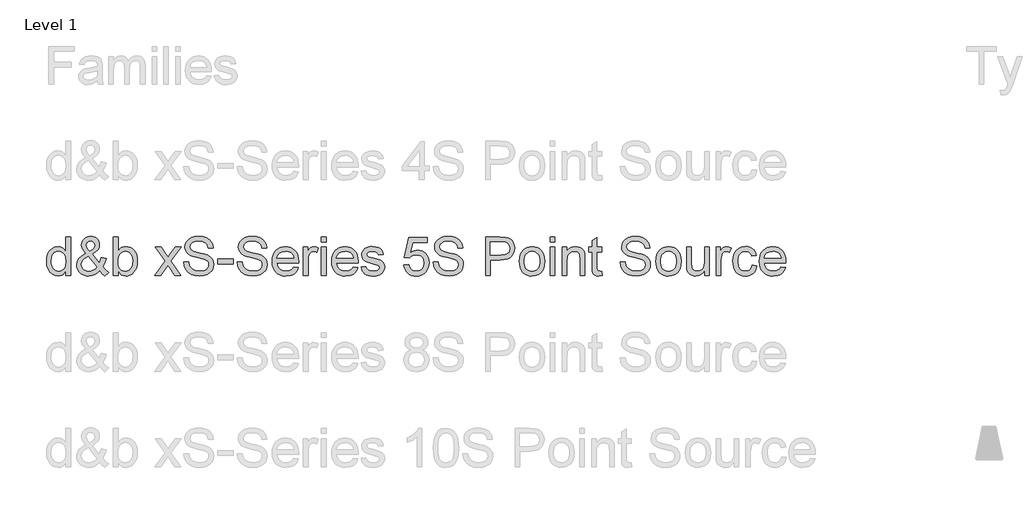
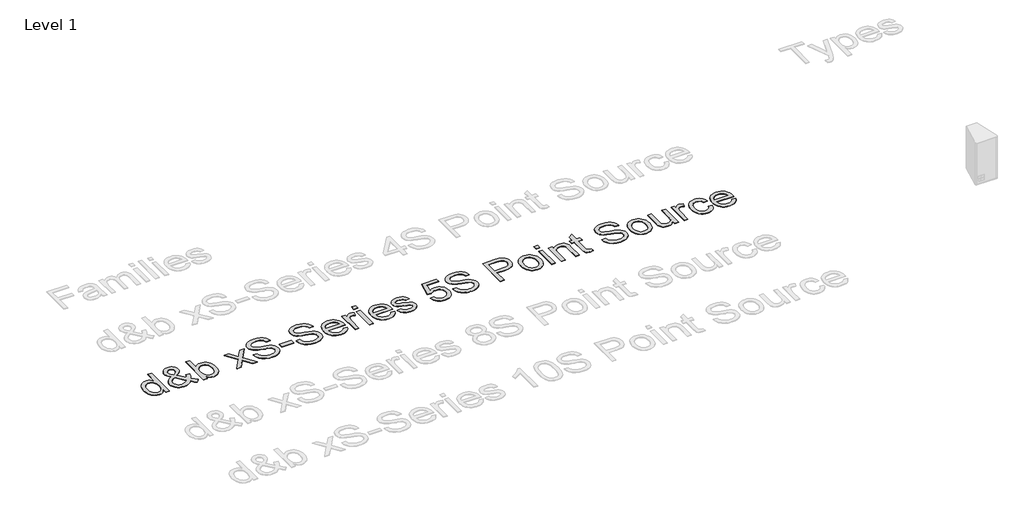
# One storey, part 49 of 55: 1 proxy.
"""IFC4 building model written with IfcOpenShell, lengths in millimetres."""

import ifcopenshell
import ifcopenshell.guid

model = None  # the IFC model being written
_history = None  # IfcOwnerHistory: only IFC2X3 demands one
_inside = {}  # id of a spatial element -> (the spatial element, [elements in it])
_under = {}  # id of a project, library or spatial element -> (it, [spatial elements below it])
_declared = {}  # id of a project -> (the project, [libraries it declares])
_typed = {}  # id of a type object -> (the type object, [elements of that type])
_made_of = {}  # id of a material, layer set ... -> (it, [elements and type objects made of it])


def new_model(schema):
    """Start an empty IFC model of exactly this schema.

    Asked for "IFC4X3", IfcOpenShell would pick the latest addendum, in which some entities
    have other attributes; the version numbers below select the first issue.
    IFC2X3 requires an IfcOwnerHistory on every rooted entity: one is made here for all.
    """
    global model, _history
    if schema == "IFC4X3":
        model = ifcopenshell.file(schema_version=(4, 3, 0, 0))
    else:
        model = ifcopenshell.file(schema=schema)
    _inside.clear()
    _under.clear()
    _declared.clear()
    _typed.clear()
    _made_of.clear()
    _history = None
    if model.schema == "IFC2X3":
        org = make("IfcOrganization", Name="unknown")
        user = make(
            "IfcPersonAndOrganization",
            ThePerson=make("IfcPerson", FamilyName="unknown"),
            TheOrganization=org,
        )
        app = make(
            "IfcApplication",
            ApplicationDeveloper=org,
            Version="unknown",
            ApplicationFullName="unknown",
            ApplicationIdentifier="unknown",
        )
        _history = make(
            "IfcOwnerHistory",
            OwningUser=user,
            OwningApplication=app,
            ChangeAction="ADDED",
            CreationDate=0,
        )
    return model


def make(cls, **values):
    """One entity of the class cls with the attributes given. An attribute that is None is left unset."""
    return model.create_entity(
        cls, **{name: value for name, value in values.items() if value is not None}
    )


def rooted(cls, **values):
    """An entity with a GlobalId (a new one), such as an element, a storey or a relation."""
    return make(cls, GlobalId=ifcopenshell.guid.new(), OwnerHistory=_history, **values)


def si_unit(unit_type, name, prefix=None):
    """IfcSIUnit, for example si_unit("LENGTHUNIT", "METRE", prefix="MILLI")."""
    return make("IfcSIUnit", UnitType=unit_type, Prefix=prefix, Name=name)


def assignment(units):
    """IfcUnitAssignment: the units of a project."""
    return None if units is None else make("IfcUnitAssignment", Units=units)


def point(xyz):
    """IfcCartesianPoint."""
    return None if xyz is None else make("IfcCartesianPoint", Coordinates=xyz)


def direction(xyz):
    """IfcDirection."""
    return None if xyz is None else make("IfcDirection", DirectionRatios=xyz)


def frame(location, z_axis=None, x_axis=None):
    """IfcAxis2Placement3D, a coordinate frame: its origin and axes. An axis left out is left unset."""
    return make(
        "IfcAxis2Placement3D",
        Location=point(location),
        Axis=direction(z_axis),
        RefDirection=direction(x_axis),
    )


def origin():
    """The frame at (0, 0, 0) with its axes left unset."""
    return frame((0.0, 0.0, 0.0))


def origin_with_axes():
    """The frame at (0, 0, 0) with the z axis (0, 0, 1) and the x axis (1, 0, 0) written out."""
    return frame((0.0, 0.0, 0.0), z_axis=(0.0, 0.0, 1.0), x_axis=(1.0, 0.0, 0.0))


def place(relative_to, where):
    """IfcLocalPlacement: puts the frame where relative to a parent placement (None: the world)."""
    return make(
        "IfcLocalPlacement", PlacementRelTo=relative_to, RelativePlacement=where
    )


def context(
    kind, dimensions, precision=None, world=None, true_north=None, identifier=None
):
    """IfcGeometricRepresentationContext, for example the 3D "Model" context."""
    return make(
        "IfcGeometricRepresentationContext",
        ContextIdentifier=identifier,
        ContextType=kind,
        CoordinateSpaceDimension=dimensions,
        Precision=precision,
        WorldCoordinateSystem=world,
        TrueNorth=true_north,
    )


def project(units=None, contexts=None):
    """IfcProject with its units and contexts."""
    return rooted(
        "IfcProject",
        Name="project",
        RepresentationContexts=contexts,
        UnitsInContext=assignment(units),
    )


def spatial(cls, under=None, at=None, **own):
    """A site, building, storey or space (cls), placed at a placement, below another one or the project."""
    s = rooted(cls, ObjectPlacement=at, **own)
    if under is not None:
        _under.setdefault(under.id(), (under, []))[1].append(s)
    return s


def polyline(points):
    """IfcPolyline through the points."""
    return make("IfcPolyline", Points=[point(p) for p in points])


def outline(outer, holes=None, kind="AREA"):
    """IfcArbitraryClosedProfileDef: a profile drawn as a closed curve; with holes, ...WithVoids."""
    if holes is None:
        return make("IfcArbitraryClosedProfileDef", ProfileType=kind, OuterCurve=outer)
    return make(
        "IfcArbitraryProfileDefWithVoids",
        ProfileType=kind,
        OuterCurve=outer,
        InnerCurves=holes,
    )


def extrude(swept, where, along, depth):
    """IfcExtrudedAreaSolid: the profile swept, set in the frame where, extruded along a direction by depth."""
    return make(
        "IfcExtrudedAreaSolid",
        SweptArea=swept,
        Position=where,
        ExtrudedDirection=direction(along),
        Depth=depth,
    )


def shape(context_of_items, identifier, shape_type, items):
    """IfcShapeRepresentation: the items that make up one representation, for example the "Body"."""
    return make(
        "IfcShapeRepresentation",
        ContextOfItems=context_of_items,
        RepresentationIdentifier=identifier,
        RepresentationType=shape_type,
        Items=items,
    )


def made_of(thing, what):
    """Note that an element or type object is made of a material, layer set ...; save() writes the relation."""
    if what is not None:
        _made_of.setdefault(what.id(), (what, []))[1].append(thing)
    return thing


def element(
    cls,
    number,
    at=None,
    inside=None,
    cuts=None,
    type_object=None,
    material=None,
    context=None,
    identifier="Body",
    shape_type=None,
    held_by="IfcProductDefinitionShape",
    body=None,
    shapes=None,
    **own,
):
    """One element of the class cls, such as IfcWall. Its Tag is "e" and its number.

    at: its placement. inside: the storey or other place that contains it. cuts: it is an
    opening in that element (IfcRelVoidsElement). A single representation is given by context,
    identifier, shape_type and body (its items); several are given by shapes. held_by: the class
    of the entity that holds the representations. save() writes the other relations.
    """
    e = rooted(cls, Tag="e%d" % number, ObjectPlacement=at, **own)
    if body is not None:
        shapes = [shape(context, identifier, shape_type, body)]
    if shapes is not None:
        e.Representation = make(held_by, Representations=shapes)
    if inside is not None:
        _inside.setdefault(inside.id(), (inside, []))[1].append(e)
    if cuts is not None:
        rooted(
            "IfcRelVoidsElement", RelatingBuildingElement=cuts, RelatedOpeningElement=e
        )
    if type_object is not None:
        _typed.setdefault(type_object.id(), (type_object, []))[1].append(e)
    return made_of(e, material)


def aggregate(whole, parts):
    """IfcRelAggregates: a whole, such as a stair, and the parts it consists of."""
    return rooted("IfcRelAggregates", RelatingObject=whole, RelatedObjects=parts)


def save(model, path):
    """Write the relations noted so far, then the file.

    IfcRelAggregates (storeys below a building ...), IfcRelContainedInSpatialStructure (elements
    in a storey), IfcRelDefinesByType, IfcRelAssociatesMaterial and IfcRelDeclares: one each for
    every whole, place, type object, material and project.
    """
    for whole, parts in _under.values():
        aggregate(whole, parts)
    for where, things in _inside.values():
        rooted(
            "IfcRelContainedInSpatialStructure",
            RelatedElements=things,
            RelatingStructure=where,
        )
    for kind, things in _typed.values():
        rooted("IfcRelDefinesByType", RelatedObjects=things, RelatingType=kind)
    for what, things in _made_of.values():
        rooted("IfcRelAssociatesMaterial", RelatedObjects=things, RelatingMaterial=what)
    for by, libraries in _declared.values():
        rooted("IfcRelDeclares", RelatingContext=by, RelatedDefinitions=libraries)
    model.write(path)


model = new_model("IFC4")

# Units and contexts
model_context = context("Model", 3, world=origin())
ifc_project = project(units=[si_unit("LENGTHUNIT", "METRE", prefix="MILLI")], contexts=[model_context])

# Site, building, storey
site = spatial("IfcSite", under=ifc_project)
building = spatial("IfcBuilding", under=site)
storey = spatial("IfcBuildingStorey", under=building, Name="Level 1", Elevation=0.0)

# Proxy
placement = place(None, origin())
element("IfcBuildingElementProxy", 1, Name="400mm Arial", ObjectType="400mm Arial", at=placement, inside=storey, context=model_context, shape_type="SweptSolid", body=[
    extrude(outline(polyline([(-20879.8211974, 15351.3054836), (-20879.8211974, 15398.6886846), (-20894.8491769, 15375.2116819), (-20913.0532043, 15358.4423943), (-20934.4332796, 15348.3808217), (-20958.9894028, 15345.0269642), (-20991.4611202, 15349.8830065), (-21021.1859854, 15364.4511335), (-21046.3491139, 15387.7135384), (-21065.1356211, 15418.6524142), (-21076.8342686, 15456.0169621), (-21080.7338177, 15498.5563835), (-21077.1408369, 15540.5685074), (-21066.3618944, 15578.5094038), (-21048.4092531, 15610.2208318), (-21023.2951755, 15633.5445503), (-20992.9203855, 15647.8919481), (-20959.1856065, 15652.674414), (-20934.6110892, 15649.2531115), (-20912.8815261, 15638.9892038), (-20894.4629008, 15623.2561171), (-20879.8211974, 15603.4272776), (-20879.8211974, 15753.1307242), (-20829.5930424, 15753.1307242), (-20829.5930424, 15351.3054836), (-20879.8211974, 15351.3054836)]), holes=[polyline([(-21030.5056627, 15498.7525872), (-21029.089317, 15474.3957335), (-21024.8402799, 15453.3191608), (-21017.7585515, 15435.5228693), (-21007.8441318, 15421.0068589), (-20983.1469871, 15401.6930542), (-20969.2717046, 15396.864603), (-20954.3786151, 15395.2551193), (-20939.415015, 15396.7910266), (-20925.6225058, 15401.3987486), (-20901.5507606, 15419.8296365), (-20892.0440767, 15433.7386416), (-20885.2535882, 15450.8911397), (-20879.8211974, 15494.9266145), (-20885.3516901, 15543.0701049), (-20892.2648059, 15561.6052261), (-20901.9431681, 15576.4492646), (-20913.6448812, 15587.8229496), (-20926.6280499, 15595.9470104), (-20940.8926743, 15600.8214468), (-20956.4387543, 15602.4462589), (-20971.6261493, 15600.8858262), (-20985.5014319, 15596.2045278), (-20998.064602, 15588.4023638), (-21009.3156597, 15577.4793342), (-21018.586286, 15563.1963157), (-21025.2081619, 15545.3141851), (-21030.5056627, 15498.7525872)])]), origin_with_axes(), (0.0, 0.0, 1.0), 5.0),
    extrude(outline(polyline([(-20523.809528, 15400.9450275), (-20549.3405384, 15376.4808748), (-20577.0788409, 15359.00648), (-20607.0734862, 15348.5218431), (-20639.3735254, 15345.0269642), (-20668.6814577, 15347.6144009), (-20694.8010793, 15355.376711), (-20717.7323904, 15368.3138945), (-20737.4753908, 15386.4259514), (-20750.308341, 15403.7961129), (-20759.4747341, 15422.1595558), (-20764.9745699, 15441.5162802), (-20766.8078485, 15461.8662859), (-20760.9094739, 15497.0603301), (-20743.2143499, 15528.6736562), (-20713.796053, 15556.6817387), (-20672.7281596, 15581.0600523), (-20694.6416638, 15609.4114914), (-20707.7995765, 15631.8768186), (-20714.3846642, 15651.0557332), (-20716.5796934, 15669.5479349), (-20714.8506481, 15687.1020374), (-20709.6635119, 15703.4666548), (-20701.018285, 15718.6417871), (-20688.9149674, 15732.6274343), (-20674.1935562, 15744.3444759), (-20657.6940487, 15752.7137912), (-20639.4164449, 15757.7353805), (-20619.3607448, 15759.4092436), (-20600.212487, 15757.8089569), (-20582.8913764, 15753.0080968), (-20567.397413, 15745.0066634), (-20553.7305969, 15733.8046567), (-20542.5715097, 15720.3585698), (-20534.6007332, 15705.6248959), (-20529.8182672, 15689.603635), (-20528.2241119, 15672.2947871), (-20532.9452642, 15644.31123), (-20547.108721, 15618.436863), (-20570.7144823, 15594.6716861), (-20603.7625482, 15573.0156993), (-20531.069066, 15482.4676776), (-20518.6837055, 15508.3420446), (-20509.3885538, 15538.0914353), (-20459.1603987, 15527.2021282), (-20474.6114425, 15480.6773185), (-20494.6732739, 15444.5022557), (-20466.1256311, 15411.1966724), (-20434.0463211, 15383.6790991), (-20471.7174374, 15345.0269642), (-20497.3465498, 15368.47331), (-20523.809528, 15400.9450275)]), holes=[polyline([(-20557.4584678, 15437.1446158), (-20647.1235727, 15549.0788442), (-20681.3733865, 15527.2266537), (-20702.305872, 15506.9931439), (-20713.0112381, 15487.6670765), (-20716.5796934, 15468.5372127), (-20711.6991256, 15444.8456122), (-20697.0574222, 15420.2710949), (-20686.2784798, 15409.3266056), (-20673.4639236, 15401.5091132), (-20658.6137537, 15396.8186177), (-20641.7279702, 15395.2551193), (-20619.0051256, 15398.1736498), (-20595.5710425, 15406.9292412), (-20574.1480476, 15420.3201459), (-20557.4584678, 15437.1446158)]), polyline([(-20629.1709314, 15604.7026019), (-20602.9041569, 15621.3676562), (-20587.8700461, 15635.8499441), (-20580.8067117, 15649.9398245), (-20578.452267, 15665.4276565), (-20581.5547385, 15682.9756277), (-20590.862153, 15696.9674062), (-20604.829406, 15706.1276679), (-20621.9113933, 15709.1810885), (-20639.3612626, 15706.1521934), (-20653.6473468, 15697.0655081), (-20663.1754905, 15683.6132898), (-20666.3515384, 15667.4877957), (-20662.0350563, 15649.0936959), (-20648.9875082, 15628.639457), (-20629.1709314, 15604.7026019)])]), origin_with_axes(), (0.0, 0.0, 1.0), 5.0),
    extrude(outline(polyline([(-20333.590011, 15351.3054836), (-20383.8181661, 15351.3054836), (-20383.8181661, 15753.1307242), (-20333.590011, 15753.1307242), (-20333.590011, 15604.1139907), (-20317.0721094, 15625.3591759), (-20298.4204923, 15640.5343082), (-20277.6351595, 15649.6393876), (-20254.7161112, 15652.674414), (-20228.8417442, 15649.9398245), (-20204.3898543, 15641.736056), (-20182.758393, 15628.5781433), (-20165.3453119, 15610.9811212), (-20151.6968898, 15589.116668), (-20141.3594058, 15563.1564619), (-20134.8478945, 15534.1796234), (-20132.6773907, 15503.265273), (-20134.9245365, 15467.5929822), (-20141.6659741, 15436.2126481), (-20152.9017034, 15409.1242705), (-20168.6317244, 15386.3278495), (-20187.5132678, 15368.2587122), (-20208.2035643, 15355.3521855), (-20230.702614, 15347.6082695), (-20255.0104168, 15345.0269642), (-20278.6836232, 15348.3562962), (-20299.671291, 15358.3442924), (-20317.9734203, 15374.9909527), (-20333.590011, 15398.2962771), (-20333.590011, 15351.3054836)]), holes=[polyline([(-20333.590011, 15500.9108283), (-20330.1564457, 15459.0213318), (-20319.8557498, 15430.6698927), (-20307.6849872, 15415.1759293), (-20293.5399244, 15404.1088126), (-20277.4205617, 15397.4685426), (-20259.3268989, 15395.2551193), (-20244.3050508, 15396.8860628), (-20230.3377977, 15401.7788933), (-20217.4251396, 15409.9336109), (-20205.5670767, 15421.3502155), (-20195.6526569, 15435.9980502), (-20188.5709285, 15453.8464584), (-20184.3218914, 15474.8954399), (-20182.9055458, 15499.1449947), (-20188.3379366, 15545.1057186), (-20195.1284251, 15562.8989445), (-20204.6351089, 15577.2340795), (-20216.0670419, 15588.264408), (-20228.6332778, 15596.1432141), (-20242.3338164, 15600.8704977), (-20257.1686579, 15602.4462589), (-20272.190506, 15600.8153154), (-20286.1577591, 15595.9224849), (-20299.0704171, 15587.7677673), (-20310.9284801, 15576.3511628), (-20320.8428999, 15561.8504808), (-20327.9246283, 15544.443531), (-20332.1736653, 15524.1303135), (-20333.590011, 15500.9108283)])]), origin_with_axes(), (0.0, 0.0, 1.0), 5.0),
    extrude(outline(polyline([(-19950.6003285, 15351.3054836), (-19843.2768878, 15499.7336059), (-19944.3218092, 15646.3958946), (-19884.0872638, 15646.3958946), (-19835.3306367, 15575.6644497), (-19812.4729021, 15542.4079173), (-19792.6563253, 15569.6802359), (-19737.1306695, 15646.3958946), (-19676.6999204, 15646.3958946), (-19782.8461387, 15499.635504), (-19680.623995, 15351.3054836), (-19740.9566422, 15351.3054836), (-19802.5646137, 15440.5781811), (-19813.7482263, 15456.9611926), (-19890.1695795, 15351.3054836), (-19950.6003285, 15351.3054836)])), origin_with_axes(), (0.0, 0.0, 1.0), 5.0),
    extrude(outline(polyline([(-19649.2313981, 15489.43291), (-19599.003243, 15489.43291), (-19593.2397584, 15461.5597175), (-19582.8164352, 15439.155704), (-19566.556051, 15421.3747409), (-19543.2813835, 15407.3706996), (-19514.8318425, 15398.2840144), (-19483.0468381, 15395.2551193), (-19455.063281, 15397.5482504), (-19430.5623402, 15404.4276437), (-19410.7089752, 15415.3169507), (-19396.6681457, 15429.6398231), (-19388.3172244, 15446.0841483), (-19385.533584, 15463.3378138), (-19387.6182486, 15480.150021), (-19393.8722425, 15494.6813598), (-19406.5764341, 15507.0789831), (-19428.0116917, 15517.4900435), (-19501.1466323, 15536.6689582), (-19549.1552327, 15549.360887), (-19579.8733793, 15561.4396792), (-19604.8770922, 15578.3377255), (-19622.5967416, 15598.8164899), (-19633.1549549, 15622.434514), (-19636.6743593, 15648.7503394), (-19632.3210891, 15678.1686363), (-19619.2612782, 15705.6003704), (-19597.8382834, 15728.8505125), (-19568.395461, 15745.7240333), (-19533.054264, 15755.987941), (-19493.9361452, 15759.4092436), (-19451.5561394, 15755.8285255), (-19414.4736342, 15745.0863712), (-19384.013005, 15727.40351), (-19361.4986269, 15703.000671), (-19347.249331, 15673.3984331), (-19341.5839483, 15640.1173753), (-19391.8121033, 15640.1173753), (-19401.0336787, 15670.0874951), (-19409.3968627, 15681.9455581), (-19420.2616443, 15691.7189564), (-19450.3053406, 15704.8155555), (-19491.9741079, 15709.1810885), (-19534.6238939, 15704.8646064), (-19550.9271976, 15699.4690038), (-19563.8827752, 15691.9151602), (-19580.805347, 15672.8588728), (-19586.4462043, 15650.2218674), (-19582.4485532, 15630.9203254), (-19570.4556002, 15615.3957052), (-19542.1041611, 15601.5142912), (-19488.4424407, 15587.3385717), (-19433.0639377, 15573.8740907), (-19399.5621507, 15562.1263923), (-19370.9286687, 15543.9039708), (-19350.9526764, 15521.4141181), (-19339.2172408, 15494.902089), (-19335.3054289, 15464.6131381), (-19339.805852, 15433.6497368), (-19353.3071212, 15404.5257455), (-19375.2574136, 15379.4607189), (-19405.1049061, 15360.6742117), (-19440.9979261, 15348.9387761), (-19481.0848008, 15345.0269642), (-19530.2951491, 15349.2453444), (-19570.7989567, 15361.900485), (-19603.0622077, 15383.041437), (-19627.5508858, 15412.7172513), (-19643.2717098, 15448.8677887), (-19649.2313981, 15489.43291)])), origin_with_axes(), (0.0, 0.0, 1.0), 5.0),
    extrude(outline(polyline([(-19291.3557932, 15470.5973519), (-19291.3557932, 15520.825507), (-19134.3928086, 15520.825507), (-19134.3928086, 15470.5973519), (-19291.3557932, 15470.5973519)])), origin_with_axes(), (0.0, 0.0, 1.0), 5.0),
    extrude(outline(polyline([(-19090.4431729, 15489.43291), (-19040.2150178, 15489.43291), (-19034.4515332, 15461.5597175), (-19024.02821, 15439.155704), (-19007.7678258, 15421.3747409), (-18984.4931583, 15407.3706996), (-18956.0436173, 15398.2840144), (-18924.2586129, 15395.2551193), (-18896.2750558, 15397.5482504), (-18871.774115, 15404.4276437), (-18851.9207499, 15415.3169507), (-18837.8799205, 15429.6398231), (-18829.5289992, 15446.0841483), (-18826.7453587, 15463.3378138), (-18828.8300234, 15480.150021), (-18835.0840173, 15494.6813598), (-18847.7882089, 15507.0789831), (-18869.2234665, 15517.4900435), (-18942.3584071, 15536.6689582), (-18990.3670075, 15549.360887), (-19021.0851541, 15561.4396792), (-19046.088867, 15578.3377255), (-19063.8085164, 15598.8164899), (-19074.3667297, 15622.434514), (-19077.8861341, 15648.7503394), (-19073.5328638, 15678.1686363), (-19060.473053, 15705.6003704), (-19039.0500582, 15728.8505125), (-19009.6072358, 15745.7240333), (-18974.2660388, 15755.987941), (-18935.14792, 15759.4092436), (-18892.7679141, 15755.8285255), (-18855.685409, 15745.0863712), (-18825.2247798, 15727.40351), (-18802.7104017, 15703.000671), (-18788.4611058, 15673.3984331), (-18782.7957231, 15640.1173753), (-18833.0238781, 15640.1173753), (-18842.2454535, 15670.0874951), (-18850.6086375, 15681.9455581), (-18861.4734191, 15691.7189564), (-18891.5171154, 15704.8155555), (-18933.1858827, 15709.1810885), (-18975.8356687, 15704.8646064), (-18992.1389724, 15699.4690038), (-19005.09455, 15691.9151602), (-19022.0171218, 15672.8588728), (-19027.657979, 15650.2218674), (-19023.660328, 15630.9203254), (-19011.667375, 15615.3957052), (-18983.3159359, 15601.5142912), (-18929.6542155, 15587.3385717), (-18874.2757125, 15573.8740907), (-18840.7739255, 15562.1263923), (-18812.1404435, 15543.9039708), (-18792.1644512, 15521.4141181), (-18780.4290156, 15494.902089), (-18776.5172037, 15464.6131381), (-18781.0176267, 15433.6497368), (-18794.518896, 15404.5257455), (-18816.4691883, 15379.4607189), (-18846.3166809, 15360.6742117), (-18882.2097009, 15348.9387761), (-18922.2965756, 15345.0269642), (-18971.5069238, 15349.2453444), (-19012.0107315, 15361.900485), (-19044.2739825, 15383.041437), (-19068.7626606, 15412.7172513), (-19084.4834846, 15448.8677887), (-19090.4431729, 15489.43291)])), origin_with_axes(), (0.0, 0.0, 1.0), 5.0),
    extrude(outline(polyline([(-18500.850962, 15439.204755), (-18451.6038255, 15432.9262356), (-18459.1546035, 15413.2016293), (-18469.3480004, 15395.819205), (-18482.1840164, 15380.7789628), (-18497.6626513, 15368.0809026), (-18515.6244897, 15357.9948045), (-18535.9101161, 15350.7904488), (-18583.4527326, 15345.0269642), (-18614.618469, 15347.5132333), (-18642.3874282, 15354.9720408), (-18666.7596104, 15367.4033865), (-18687.7350155, 15384.8072706), (-18704.602405, 15406.699315), (-18716.6505403, 15432.5951418), (-18723.8794215, 15462.4947509), (-18726.2890486, 15496.3981425), (-18723.8548961, 15531.4511652), (-18716.5524385, 15562.3471215), (-18704.3816758, 15589.0860112), (-18687.342608, 15611.6678343), (-18666.4223852, 15629.6082129), (-18642.6081574, 15642.4227691), (-18615.8999246, 15650.1115028), (-18586.2976867, 15652.674414), (-18557.6488763, 15650.1176342), (-18531.7407868, 15642.4472946), (-18508.5734182, 15629.6633952), (-18488.1467704, 15611.7659362), (-18471.472519, 15589.233164), (-18459.5623394, 15562.5433252), (-18452.4162316, 15531.6964199), (-18450.0341957, 15496.6924481), (-18450.3285013, 15483.1543906), (-18676.0608935, 15483.1543906), (-18673.1515601, 15463.1109533), (-18667.3666157, 15445.5568507), (-18658.7060604, 15430.492083), (-18647.1698942, 15417.9166502), (-18633.3957791, 15408.0022304), (-18618.0213774, 15400.920502), (-18582.4717139, 15395.2551193), (-18555.7389556, 15397.8793442), (-18533.2245775, 15405.7520189), (-18514.9285796, 15419.3636527), (-18500.850962, 15439.204755)]), holes=[polyline([(-18676.0608935, 15533.3825457), (-18500.2623508, 15533.3825457), (-18507.0559049, 15559.9191003), (-18520.3732332, 15578.9018113), (-18534.0707061, 15589.2025071), (-18549.65664, 15596.560147), (-18567.1310348, 15600.974731), (-18586.4938904, 15602.4462589), (-18620.3512967, 15597.7496321), (-18648.3471166, 15583.6597517), (-18667.8080741, 15561.6971966), (-18676.0608935, 15533.3825457)])]), origin_with_axes(), (0.0, 0.0, 1.0), 5.0),
    extrude(outline(polyline([(-18399.8060406, 15351.3054836), (-18399.8060406, 15646.3958946), (-18355.8564049, 15646.3958946), (-18355.8564049, 15602.7405645), (-18339.6205462, 15628.0508458), (-18324.6600117, 15642.9623293), (-18309.6504263, 15650.2463929), (-18293.2674148, 15652.674414), (-18268.2514391, 15648.7993903), (-18242.843056, 15637.1743193), (-18259.618475, 15592.1455631), (-18277.2768108, 15599.871085), (-18294.9351465, 15602.4462589), (-18309.9324692, 15599.9691868), (-18323.3356365, 15592.5379705), (-18334.1636299, 15580.7166958), (-18341.4354307, 15565.0694482), (-18347.5422718, 15537.0123147), (-18349.5778855, 15506.4045327), (-18349.5778855, 15351.3054836), (-18399.8060406, 15351.3054836)])), origin_with_axes(), (0.0, 0.0, 1.0), 5.0),
    extrude(outline(polyline([(-18211.4504591, 15702.9025691), (-18211.4504591, 15753.1307242), (-18161.222304, 15753.1307242), (-18161.222304, 15702.9025691), (-18211.4504591, 15702.9025691)])), origin_with_axes(), (0.0, 0.0, 1.0), 5.0),
    extrude(outline(polyline([(-18211.4504591, 15351.3054836), (-18211.4504591, 15646.3958946), (-18161.222304, 15646.3958946), (-18161.222304, 15351.3054836), (-18211.4504591, 15351.3054836)])), origin_with_axes(), (0.0, 0.0, 1.0), 5.0),
    extrude(outline(polyline([(-17879.2775429, 15439.204755), (-17830.0304065, 15432.9262356), (-17837.5811844, 15413.2016293), (-17847.7745814, 15395.819205), (-17860.6105973, 15380.7789628), (-17876.0892323, 15368.0809026), (-17894.0510707, 15357.9948045), (-17914.336697, 15350.7904488), (-17961.8793136, 15345.0269642), (-17993.0450499, 15347.5132333), (-18020.8140092, 15354.9720408), (-18045.1861914, 15367.4033865), (-18066.1615965, 15384.8072706), (-18083.0289859, 15406.699315), (-18095.0771213, 15432.5951418), (-18102.3060025, 15462.4947509), (-18104.7156295, 15496.3981425), (-18102.281477, 15531.4511652), (-18094.9790194, 15562.3471215), (-18082.8082567, 15589.0860112), (-18065.769189, 15611.6678343), (-18044.8489662, 15629.6082129), (-18021.0347384, 15642.4227691), (-17994.3265055, 15650.1115028), (-17964.7242676, 15652.674414), (-17936.0754573, 15650.1176342), (-17910.1673678, 15642.4472946), (-17886.9999991, 15629.6633952), (-17866.5733513, 15611.7659362), (-17849.8990999, 15589.233164), (-17837.9889203, 15562.5433252), (-17830.8428126, 15531.6964199), (-17828.4607766, 15496.6924481), (-17828.7550822, 15483.1543906), (-18054.4874745, 15483.1543906), (-18051.578141, 15463.1109533), (-18045.7931967, 15445.5568507), (-18037.1326413, 15430.492083), (-18025.5964751, 15417.9166502), (-18011.8223601, 15408.0022304), (-17996.4479584, 15400.920502), (-17960.8982949, 15395.2551193), (-17934.1655366, 15397.8793442), (-17911.6511585, 15405.7520189), (-17893.3551606, 15419.3636527), (-17879.2775429, 15439.204755)]), holes=[polyline([(-18054.4874745, 15533.3825457), (-17878.6889317, 15533.3825457), (-17885.4824859, 15559.9191003), (-17898.7998141, 15578.9018113), (-17912.4972871, 15589.2025071), (-17928.0832209, 15596.560147), (-17945.5576157, 15600.974731), (-17964.9204714, 15602.4462589), (-17998.7778777, 15597.7496321), (-18026.7736975, 15583.6597517), (-18046.234655, 15561.6971966), (-18054.4874745, 15533.3825457)])]), origin_with_axes(), (0.0, 0.0, 1.0), 5.0),
    extrude(outline(polyline([(-17797.0681797, 15439.204755), (-17746.8400246, 15445.4832743), (-17738.918299, 15423.9989658), (-17723.5898825, 15408.2045655), (-17700.7566734, 15398.4924808), (-17670.3205696, 15395.2551193), (-17640.2523479, 15398.2227007), (-17619.1113959, 15407.125445), (-17606.6034081, 15420.0258403), (-17602.4340788, 15434.9863747), (-17606.6279335, 15447.7886682), (-17619.2094978, 15457.5498038), (-17670.9091808, 15471.8726761), (-17746.545719, 15496.4471934), (-17765.6878455, 15508.7957657), (-17779.5569967, 15525.141989), (-17787.9814944, 15544.443531), (-17790.7896603, 15565.6580594), (-17788.5333174, 15585.119017), (-17781.7642887, 15603.0839211), (-17771.0957109, 15618.8415332), (-17757.1407205, 15631.6806148), (-17725.2085633, 15646.5430474), (-17704.3251287, 15651.1415724), (-17681.9946916, 15652.674414), (-17649.302245, 15650.2096047), (-17620.8772295, 15642.8151766), (-17598.0194949, 15631.214631), (-17582.0288908, 15616.1314692), (-17571.4338893, 15596.4497824), (-17564.7629625, 15571.053662), (-17614.9911176, 15564.7751426), (-17621.3309506, 15580.5818057), (-17633.8757267, 15592.4889196), (-17652.748073, 15599.9569241), (-17678.070617, 15602.4462589), (-17706.9125654, 15600.0672887), (-17726.140531, 15592.930378), (-17736.9562617, 15582.6296821), (-17740.5615053, 15570.7593564), (-17734.5772915, 15556.1421785), (-17715.8398352, 15545.0566677), (-17672.5769125, 15534.3635644), (-17598.8533607, 15510.7210148), (-17579.3801404, 15499.4147748), (-17564.6158097, 15483.9392056), (-17555.3083952, 15464.2452561), (-17552.2059237, 15440.2838755), (-17555.8479555, 15415.5131545), (-17566.7740507, 15392.2139614), (-17584.5672766, 15372.2134436), (-17608.8107, 15357.3387483), (-17638.0941069, 15348.1049102), (-17671.0072827, 15345.0269642), (-17698.040478, 15346.5107549), (-17721.6523707, 15350.962127), (-17741.8429609, 15358.3810806), (-17758.6122485, 15368.7676156), (-17772.3097214, 15382.0726811), (-17783.2848676, 15398.2472262), (-17791.5376871, 15417.2912508), (-17797.0681797, 15439.204755)])), origin_with_axes(), (0.0, 0.0, 1.0), 5.0),
    extrude(outline(polyline([(-17351.2933034, 15458.0403131), (-17301.0651483, 15464.3188325), (-17291.843573, 15434.1647716), (-17275.7548671, 15412.5700985), (-17252.872607, 15399.5838641), (-17223.2703691, 15395.2551193), (-17204.1405054, 15396.7603698), (-17187.2669845, 15401.2761213), (-17172.6498066, 15408.8023737), (-17160.2889715, 15419.3391272), (-17150.4603909, 15432.3652155), (-17143.4399761, 15447.3594725), (-17137.8236444, 15483.2524925), (-17143.0843569, 15517.0485851), (-17149.6602476, 15530.9667873), (-17158.8664945, 15542.8984267), (-17170.7337545, 15552.4694899), (-17185.2926845, 15559.3059636), (-17222.4855542, 15564.7751426), (-17246.851605, 15562.5923761), (-17266.5823427, 15556.0440766), (-17282.3399548, 15546.0131609), (-17294.786629, 15533.3825457), (-17345.014784, 15539.6610651), (-17301.0651483, 15746.8522048), (-17106.4310474, 15746.8522048), (-17106.4310474, 15696.6240497), (-17260.4509761, 15696.6240497), (-17282.0333865, 15585.9651456), (-17264.3076057, 15598.6693371), (-17246.1526292, 15607.7437597), (-17227.5684571, 15613.1884132), (-17208.5550893, 15615.0032977), (-17184.0909366, 15612.7530862), (-17161.6133467, 15606.0024516), (-17141.1223196, 15594.7513939), (-17122.6178552, 15578.9999131), (-17107.2955701, 15559.7106338), (-17096.3510808, 15537.8461806), (-17089.7843872, 15513.4065534), (-17087.5954893, 15486.3917522), (-17089.563658, 15460.3702324), (-17095.468164, 15436.1635971), (-17105.3090073, 15413.7718464), (-17119.0861881, 15393.1949801), (-17139.9573599, 15372.1214731), (-17164.311148, 15357.0689682), (-17192.1475523, 15348.0374652), (-17223.4665728, 15345.0269642), (-17249.3869251, 15346.9614103), (-17272.7995484, 15352.7647488), (-17293.7044428, 15362.4369796), (-17312.1016082, 15375.9781027), (-17327.4085649, 15392.7136678), (-17339.042833, 15411.9692246), (-17347.0044125, 15433.744773), (-17351.2933034, 15458.0403131)])), origin_with_axes(), (0.0, 0.0, 1.0), 5.0),
    extrude(outline(polyline([(-17043.6458536, 15489.43291), (-16993.4176985, 15489.43291), (-16987.6542139, 15461.5597175), (-16977.2308907, 15439.155704), (-16960.9705065, 15421.3747409), (-16937.695839, 15407.3706996), (-16909.246298, 15398.2840144), (-16877.4612936, 15395.2551193), (-16849.4777365, 15397.5482504), (-16824.9767957, 15404.4276437), (-16805.1234307, 15415.3169507), (-16791.0826012, 15429.6398231), (-16782.7316799, 15446.0841483), (-16779.9480394, 15463.3378138), (-16782.0327041, 15480.150021), (-16788.286698, 15494.6813598), (-16800.9908896, 15507.0789831), (-16822.4261472, 15517.4900435), (-16895.5610878, 15536.6689582), (-16943.5696882, 15549.360887), (-16974.2878348, 15561.4396792), (-16999.2915477, 15578.3377255), (-17017.0111971, 15598.8164899), (-17027.5694104, 15622.434514), (-17031.0888148, 15648.7503394), (-17026.7355445, 15678.1686363), (-17013.6757337, 15705.6003704), (-16992.2527389, 15728.8505125), (-16962.8099165, 15745.7240333), (-16927.4687195, 15755.987941), (-16888.3506007, 15759.4092436), (-16845.9705948, 15755.8285255), (-16808.8880897, 15745.0863712), (-16778.4274605, 15727.40351), (-16755.9130824, 15703.000671), (-16741.6637865, 15673.3984331), (-16735.9984038, 15640.1173753), (-16786.2265588, 15640.1173753), (-16795.4481342, 15670.0874951), (-16803.8113182, 15681.9455581), (-16814.6760998, 15691.7189564), (-16844.7197961, 15704.8155555), (-16886.3885634, 15709.1810885), (-16929.0383494, 15704.8646064), (-16945.3416531, 15699.4690038), (-16958.2972307, 15691.9151602), (-16975.2198025, 15672.8588728), (-16980.8606597, 15650.2218674), (-16976.8630087, 15630.9203254), (-16964.8700557, 15615.3957052), (-16936.5186166, 15601.5142912), (-16882.8568962, 15587.3385717), (-16827.4783932, 15573.8740907), (-16793.9766062, 15562.1263923), (-16765.3431242, 15543.9039708), (-16745.3671319, 15521.4141181), (-16733.6316963, 15494.902089), (-16729.7198844, 15464.6131381), (-16734.2203074, 15433.6497368), (-16747.7215767, 15404.5257455), (-16769.671869, 15379.4607189), (-16799.5193616, 15360.6742117), (-16835.4123816, 15348.9387761), (-16875.4992563, 15345.0269642), (-16924.7096046, 15349.2453444), (-16965.2134122, 15361.900485), (-16997.4766632, 15383.041437), (-17021.9653413, 15412.7172513), (-17037.6861653, 15448.8677887), (-17043.6458536, 15489.43291)])), origin_with_axes(), (0.0, 0.0, 1.0), 5.0),
    extrude(outline(polyline([(-16497.4146672, 15351.3054836), (-16497.4146672, 15753.1307242), (-16348.4960355, 15753.1307242), (-16288.4576939, 15749.3047514), (-16261.6881474, 15742.155578), (-16239.6520159, 15730.5182442), (-16221.907841, 15713.8654526), (-16208.0141643, 15691.6699055), (-16199.0378436, 15665.4889702), (-16196.0457367, 15636.8800137), (-16198.066022, 15612.2135259), (-16204.1268779, 15589.5213382), (-16214.2283043, 15568.8034505), (-16228.3703013, 15550.0598628), (-16247.7852736, 15534.5229799), (-16273.7056259, 15523.4252064), (-16306.1313581, 15516.7665423), (-16345.0624702, 15514.5469876), (-16447.1865121, 15514.5469876), (-16447.1865121, 15351.3054836), (-16497.4146672, 15351.3054836)]), holes=[polyline([(-16447.1865121, 15564.7751426), (-16342.1194143, 15564.7751426), (-16297.5811674, 15569.3859303), (-16280.9774267, 15575.1494149), (-16268.1506078, 15583.2182933), (-16258.5795445, 15593.3779678), (-16251.7430708, 15605.4138404), (-16246.2738918, 15635.1141801), (-16249.4989906, 15657.6776092), (-16259.1742871, 15676.709371), (-16274.0980333, 15691.0322434), (-16293.0684816, 15699.4690038), (-16343.2966366, 15702.9025691), (-16447.1865121, 15702.9025691), (-16447.1865121, 15564.7751426)])]), origin_with_axes(), (0.0, 0.0, 1.0), 5.0),
    extrude(outline(polyline([(-16145.8175816, 15498.8506891), (-16143.1013862, 15537.067497), (-16134.9528, 15569.999067), (-16121.371823, 15597.6453989), (-16102.3584553, 15620.0064928), (-16083.2163288, 15634.2987084), (-16062.0876395, 15644.5074337), (-16038.9723875, 15650.6326689), (-16013.8705727, 15652.674414), (-15986.1598614, 15650.1881449), (-15961.1040319, 15642.7293374), (-15938.703084, 15630.2979917), (-15918.9570179, 15612.8941076), (-15902.8407209, 15591.1062964), (-15891.3290801, 15565.5231694), (-15884.4220956, 15536.1447264), (-15882.1197675, 15502.9709675), (-15886.1909949, 15452.2277776), (-15898.4046771, 15413.6001681), (-15918.4051949, 15384.6723805), (-15945.8369291, 15363.0286565), (-15978.4190111, 15349.5273873), (-16013.8705727, 15345.0269642), (-16041.9859542, 15347.5040363), (-16067.2747757, 15354.9352526), (-16089.7370371, 15367.3206131), (-16109.3727386, 15384.6601178), (-16125.3173574, 15406.6594611), (-16136.7063709, 15433.0243374), (-16143.5397789, 15463.7547468), (-16145.8175816, 15498.8506891)]), holes=[polyline([(-16095.5894266, 15498.948791), (-16094.1362927, 15474.5858058), (-16089.776891, 15453.4908391), (-16082.5112216, 15435.6638907), (-16072.3392845, 15421.1049608), (-16059.9661867, 15409.7956551), (-16046.0970355, 15401.7175796), (-16030.7318308, 15396.8707344), (-16013.8705727, 15395.2551193), (-15997.0951537, 15396.8799314), (-15981.7912627, 15401.7543678), (-15967.9588997, 15409.8784286), (-15955.5980647, 15421.2521136), (-15945.4261275, 15435.9551307), (-15938.1604581, 15454.0671876), (-15933.8010564, 15475.5882843), (-15932.3479226, 15500.5184208), (-15933.8102535, 15524.1088538), (-15938.1972463, 15544.6519975), (-15945.5089009, 15562.1478521), (-15955.7452175, 15576.5964174), (-15968.1520377, 15587.9057231), (-15981.9752037, 15595.9837986), (-15997.2147154, 15600.8306439), (-16013.8705727, 15602.4462589), (-16030.7318308, 15600.8367752), (-16046.0970355, 15596.008324), (-16059.9661867, 15587.9609054), (-16072.3392845, 15576.6945193), (-16082.5112216, 15562.1785089), (-16089.776891, 15544.3822174), (-16094.1362927, 15523.3056447), (-16095.5894266, 15498.948791)])]), origin_with_axes(), (0.0, 0.0, 1.0), 5.0),
    extrude(outline(polyline([(-15825.613093, 15351.3054836), (-15825.613093, 15646.3958946), (-15775.384938, 15646.3958946), (-15775.384938, 15351.3054836), (-15825.613093, 15351.3054836)])), origin_with_axes(), (0.0, 0.0, 1.0), 5.0),
    extrude(outline(polyline([(-15825.613093, 15702.9025691), (-15825.613093, 15753.1307242), (-15775.384938, 15753.1307242), (-15775.384938, 15702.9025691), (-15825.613093, 15702.9025691)])), origin_with_axes(), (0.0, 0.0, 1.0), 5.0),
    extrude(outline(polyline([(-15700.0427053, 15351.3054836), (-15700.0427053, 15646.3958946), (-15649.8145503, 15646.3958946), (-15649.8145503, 15605.1931112), (-15632.364681, 15625.9661812), (-15611.40767, 15640.8040883), (-15586.9435173, 15649.7068326), (-15558.9722229, 15652.674414), (-15534.2137646, 15650.2831811), (-15511.539971, 15643.1094821), (-15492.6308365, 15632.0484968), (-15479.1663554, 15617.9954046), (-15470.0306192, 15600.9869937), (-15464.1077191, 15581.0600523), (-15461.4589687, 15532.4996289), (-15461.4589687, 15351.3054836), (-15511.6871238, 15351.3054836), (-15511.6871238, 15525.7306002), (-15513.1341263, 15551.7030691), (-15517.4751339, 15570.1707452), (-15525.4826986, 15583.4022343), (-15537.9293728, 15593.666142), (-15553.8831887, 15600.2512297), (-15572.4121785, 15602.4462589), (-15601.8304754, 15597.5166402), (-15626.9077647, 15582.727784), (-15636.9294834, 15570.6551232), (-15644.0878539, 15554.1556157), (-15648.3828762, 15533.2292616), (-15649.8145503, 15507.8760607), (-15649.8145503, 15351.3054836), (-15700.0427053, 15351.3054836)])), origin_with_axes(), (0.0, 0.0, 1.0), 5.0),
    extrude(outline(polyline([(-15285.660426, 15393.1949801), (-15279.3819066, 15349.8339556), (-15316.954921, 15345.0269642), (-15341.0634544, 15347.1116288), (-15359.0406213, 15353.3656227), (-15371.7448128, 15363.004131), (-15380.0344205, 15375.2423387), (-15384.5961572, 15396.2606634), (-15386.1167361, 15432.2395225), (-15386.1167361, 15596.1677396), (-15423.7878524, 15596.1677396), (-15423.7878524, 15646.3958946), (-15386.1167361, 15646.3958946), (-15386.1167361, 15718.1083582), (-15335.888581, 15747.6370197), (-15335.888581, 15646.3958946), (-15285.660426, 15646.3958946), (-15285.660426, 15596.1677396), (-15335.888581, 15596.1677396), (-15335.888581, 15433.7110505), (-15333.2398307, 15407.812158), (-15324.6559175, 15398.6396336), (-15307.537142, 15395.2551193), (-15285.660426, 15393.1949801)])), origin_with_axes(), (0.0, 0.0, 1.0), 5.0),
    extrude(outline(polyline([(-15091.0263251, 15489.43291), (-15040.79817, 15489.43291), (-15035.0346854, 15461.5597175), (-15024.6113622, 15439.155704), (-15008.350978, 15421.3747409), (-14985.0763104, 15407.3706996), (-14956.6267695, 15398.2840144), (-14924.8417651, 15395.2551193), (-14896.858208, 15397.5482504), (-14872.3572671, 15404.4276437), (-14852.5039021, 15415.3169507), (-14838.4630726, 15429.6398231), (-14830.1121513, 15446.0841483), (-14827.3285109, 15463.3378138), (-14829.4131756, 15480.150021), (-14835.6671695, 15494.6813598), (-14848.371361, 15507.0789831), (-14869.8066186, 15517.4900435), (-14942.9415593, 15536.6689582), (-14990.9501596, 15549.360887), (-15021.6683062, 15561.4396792), (-15046.6720192, 15578.3377255), (-15064.3916686, 15598.8164899), (-15074.9498819, 15622.434514), (-15078.4692863, 15648.7503394), (-15074.116016, 15678.1686363), (-15061.0562052, 15705.6003704), (-15039.6332103, 15728.8505125), (-15010.190388, 15745.7240333), (-14974.849191, 15755.987941), (-14935.7310722, 15759.4092436), (-14893.3510663, 15755.8285255), (-14856.2685612, 15745.0863712), (-14825.807932, 15727.40351), (-14803.2935539, 15703.000671), (-14789.044258, 15673.3984331), (-14783.3788752, 15640.1173753), (-14833.6070303, 15640.1173753), (-14842.8286056, 15670.0874951), (-14851.1917897, 15681.9455581), (-14862.0565713, 15691.7189564), (-14892.1002675, 15704.8155555), (-14933.7690349, 15709.1810885), (-14976.4188208, 15704.8646064), (-14992.7221246, 15699.4690038), (-15005.6777022, 15691.9151602), (-15022.600274, 15672.8588728), (-15028.2411312, 15650.2218674), (-15024.2434802, 15630.9203254), (-15012.2505272, 15615.3957052), (-14983.8990881, 15601.5142912), (-14930.2373677, 15587.3385717), (-14874.8588647, 15573.8740907), (-14841.3570777, 15562.1263923), (-14812.7235957, 15543.9039708), (-14792.7476034, 15521.4141181), (-14781.0121677, 15494.902089), (-14777.1003558, 15464.6131381), (-14781.6007789, 15433.6497368), (-14795.1020481, 15404.5257455), (-14817.0523405, 15379.4607189), (-14846.8998331, 15360.6742117), (-14882.7928531, 15348.9387761), (-14922.8797278, 15345.0269642), (-14972.090076, 15349.2453444), (-15012.5938837, 15361.900485), (-15044.8571347, 15383.041437), (-15069.3458128, 15412.7172513), (-15085.0666367, 15448.8677887), (-15091.0263251, 15489.43291)])), origin_with_axes(), (0.0, 0.0, 1.0), 5.0),
    extrude(outline(polyline([(-14720.5936814, 15498.8506891), (-14717.877486, 15537.067497), (-14709.7288998, 15569.999067), (-14696.1479228, 15597.6453989), (-14677.134555, 15620.0064928), (-14657.9924285, 15634.2987084), (-14636.8637393, 15644.5074337), (-14613.7484872, 15650.6326689), (-14588.6466724, 15652.674414), (-14560.9359612, 15650.1881449), (-14535.8801316, 15642.7293374), (-14513.4791838, 15630.2979917), (-14493.7331177, 15612.8941076), (-14477.6168206, 15591.1062964), (-14466.1051799, 15565.5231694), (-14459.1981954, 15536.1447264), (-14456.8958672, 15502.9709675), (-14460.9670947, 15452.2277776), (-14473.1807769, 15413.6001681), (-14493.1812947, 15384.6723805), (-14520.6130288, 15363.0286565), (-14553.1951108, 15349.5273873), (-14588.6466724, 15345.0269642), (-14616.7620539, 15347.5040363), (-14642.0508754, 15354.9352526), (-14664.5131369, 15367.3206131), (-14684.1488384, 15384.6601178), (-14700.0934572, 15406.6594611), (-14711.4824706, 15433.0243374), (-14718.3158787, 15463.7547468), (-14720.5936814, 15498.8506891)]), holes=[polyline([(-14670.3655263, 15498.948791), (-14668.9123924, 15474.5858058), (-14664.5529908, 15453.4908391), (-14657.2873214, 15435.6638907), (-14647.1153842, 15421.1049608), (-14634.7422864, 15409.7956551), (-14620.8731352, 15401.7175796), (-14605.5079306, 15396.8707344), (-14588.6466724, 15395.2551193), (-14571.8712535, 15396.8799314), (-14556.5673625, 15401.7543678), (-14542.7349994, 15409.8784286), (-14530.3741644, 15421.2521136), (-14520.2022272, 15435.9551307), (-14512.9365578, 15454.0671876), (-14508.5771562, 15475.5882843), (-14507.1240223, 15500.5184208), (-14508.5863532, 15524.1088538), (-14512.973346, 15544.6519975), (-14520.2850007, 15562.1478521), (-14530.5213172, 15576.5964174), (-14542.9281375, 15587.9057231), (-14556.7513035, 15595.9837986), (-14571.9908151, 15600.8306439), (-14588.6466724, 15602.4462589), (-14605.5079306, 15600.8367752), (-14620.8731352, 15596.008324), (-14634.7422864, 15587.9609054), (-14647.1153842, 15576.6945193), (-14657.2873214, 15562.1785089), (-14664.5529908, 15544.3822174), (-14668.9123924, 15523.3056447), (-14670.3655263, 15498.948791)])]), origin_with_axes(), (0.0, 0.0, 1.0), 5.0),
    extrude(outline(polyline([(-14212.0336112, 15351.3054836), (-14212.0336112, 15402.024148), (-14230.2069818, 15377.0878801), (-14251.3724593, 15359.2762601), (-14275.5300436, 15348.5892882), (-14302.6797349, 15345.0269642), (-14327.1438875, 15347.5285618), (-14349.915783, 15355.0333545), (-14369.0211213, 15366.315069), (-14382.4856023, 15380.147432), (-14391.5477622, 15396.9473764), (-14397.4461368, 15417.1318352), (-14400.3891928, 15463.8283232), (-14400.3891928, 15646.3958946), (-14350.1610377, 15646.3958946), (-14350.1610377, 15487.4708727), (-14347.1198799, 15436.261699), (-14339.7990282, 15419.1797117), (-14327.2542521, 15406.1934773), (-14310.3194176, 15397.9897088), (-14289.8283905, 15395.2551193), (-14268.160141, 15398.0510224), (-14247.889843, 15406.4387319), (-14231.1757377, 15419.6456955), (-14220.1760661, 15436.8993611), (-14214.069225, 15460.5296479), (-14212.0336112, 15492.8664753), (-14212.0336112, 15646.3958946), (-14161.8054562, 15646.3958946), (-14161.8054562, 15351.3054836), (-14212.0336112, 15351.3054836)])), origin_with_axes(), (0.0, 0.0, 1.0), 5.0),
    extrude(outline(polyline([(-14092.7417429, 15351.3054836), (-14092.7417429, 15646.3958946), (-14048.7921073, 15646.3958946), (-14048.7921073, 15602.7405645), (-14032.5562485, 15628.0508458), (-14017.5957141, 15642.9623293), (-14002.5861287, 15650.2463929), (-13986.2031171, 15652.674414), (-13961.1871415, 15648.7993903), (-13935.7787583, 15637.1743193), (-13952.5541773, 15592.1455631), (-13970.2125131, 15599.871085), (-13987.8708489, 15602.4462589), (-14002.8681715, 15599.9691868), (-14016.2713389, 15592.5379705), (-14027.0993323, 15580.7166958), (-14034.371133, 15565.0694482), (-14040.4779742, 15537.0123147), (-14042.5135879, 15506.4045327), (-14042.5135879, 15351.3054836), (-14092.7417429, 15351.3054836)])), origin_with_axes(), (0.0, 0.0, 1.0), 5.0),
    extrude(outline(polyline([(-13716.0305799, 15458.0403131), (-13665.8024248, 15451.7617937), (-13671.2654724, 15428.0609962), (-13679.8064661, 15407.0886568), (-13691.4254058, 15388.8447755), (-13706.1222915, 15373.3293524), (-13723.2778552, 15360.9470575), (-13742.2728289, 15352.1025612), (-13763.1072125, 15346.7958634), (-13785.7810062, 15345.0269642), (-13813.95157, 15347.4948392), (-13839.2097346, 15354.8984644), (-13861.5555001, 15367.2378396), (-13880.9888665, 15384.512965), (-13896.7188875, 15406.398878), (-13907.9546168, 15432.5706163), (-13914.6960543, 15463.0281798), (-13916.9432002, 15497.7715686), (-13913.1049647, 15542.469231), (-13901.5902583, 15581.2072051), (-13882.2151398, 15612.4894374), (-13854.7956685, 15634.8198745), (-13821.9928572, 15648.2107791), (-13786.4677192, 15652.674414), (-13764.1832674, 15651.1415724), (-13744.0263997, 15646.5430474), (-13725.9971163, 15638.8788392), (-13710.095417, 15628.1489477), (-13696.5910821, 15614.5986275), (-13685.7538917, 15598.4731334), (-13677.5838457, 15579.7724653), (-13672.0809442, 15558.4966233), (-13722.3090993, 15552.2181039), (-13731.42031, 15574.1316081), (-13745.6082923, 15589.8401692), (-13764.0882312, 15599.2947365), (-13786.0753118, 15602.4462589), (-13803.1419707, 15600.8950232), (-13818.5347665, 15596.241316), (-13832.2536992, 15588.4851372), (-13844.2987689, 15577.626487), (-13854.1058897, 15563.4139793), (-13861.110976, 15545.596228), (-13865.3140278, 15524.1732331), (-13866.7150451, 15499.1449947), (-13861.2336034, 15452.0683621), (-13854.3818012, 15434.1310491), (-13844.7892782, 15419.9277384), (-13832.9833318, 15409.1334675), (-13819.4912597, 15401.423274), (-13804.3130617, 15396.797158), (-13787.4487379, 15395.2551193), (-13761.4394808, 15399.1056175), (-13740.1145878, 15410.6571121), (-13724.6022304, 15430.2039088), (-13716.0305799, 15458.0403131)])), origin_with_axes(), (0.0, 0.0, 1.0), 5.0),
    extrude(outline(polyline([(-13415.2502606, 15439.204755), (-13366.0031242, 15432.9262356), (-13373.5539022, 15413.2016293), (-13383.7472991, 15395.819205), (-13396.5833151, 15380.7789628), (-13412.06195, 15368.0809026), (-13430.0237884, 15357.9948045), (-13450.3094148, 15350.7904488), (-13497.8520313, 15345.0269642), (-13529.0177676, 15347.5132333), (-13556.7867269, 15354.9720408), (-13581.1589091, 15367.4033865), (-13602.1343142, 15384.8072706), (-13619.0017037, 15406.699315), (-13631.049839, 15432.5951418), (-13638.2787202, 15462.4947509), (-13640.6883473, 15496.3981425), (-13638.2541947, 15531.4511652), (-13630.9517371, 15562.3471215), (-13618.7809745, 15589.0860112), (-13601.7419067, 15611.6678343), (-13580.8216839, 15629.6082129), (-13557.0074561, 15642.4227691), (-13530.2992233, 15650.1115028), (-13500.6969854, 15652.674414), (-13472.048175, 15650.1176342), (-13446.1400855, 15642.4472946), (-13422.9727168, 15629.6633952), (-13402.5460691, 15611.7659362), (-13385.8718176, 15589.233164), (-13373.961638, 15562.5433252), (-13366.8155303, 15531.6964199), (-13364.4334944, 15496.6924481), (-13364.7278, 15483.1543906), (-13590.4601922, 15483.1543906), (-13587.5508588, 15463.1109533), (-13581.7659144, 15445.5568507), (-13573.1053591, 15430.492083), (-13561.5691928, 15417.9166502), (-13547.7950778, 15408.0022304), (-13532.4206761, 15400.920502), (-13496.8710126, 15395.2551193), (-13470.1382543, 15397.8793442), (-13447.6238762, 15405.7520189), (-13429.3278783, 15419.3636527), (-13415.2502606, 15439.204755)]), holes=[polyline([(-13590.4601922, 15533.3825457), (-13414.6616494, 15533.3825457), (-13421.4552036, 15559.9191003), (-13434.7725318, 15578.9018113), (-13448.4700048, 15589.2025071), (-13464.0559387, 15596.560147), (-13481.5303334, 15600.974731), (-13500.8931891, 15602.4462589), (-13534.7505954, 15597.7496321), (-13562.7464152, 15583.6597517), (-13582.2073728, 15561.6971966), (-13590.4601922, 15533.3825457)])]), origin_with_axes(), (0.0, 0.0, 1.0), 5.0),
])

save(model, "model.ifc")
